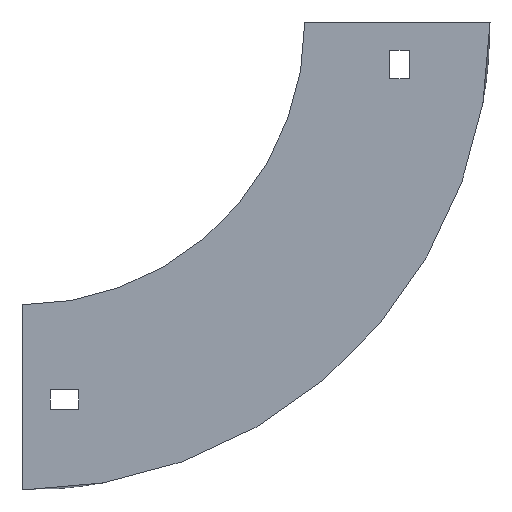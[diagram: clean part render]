
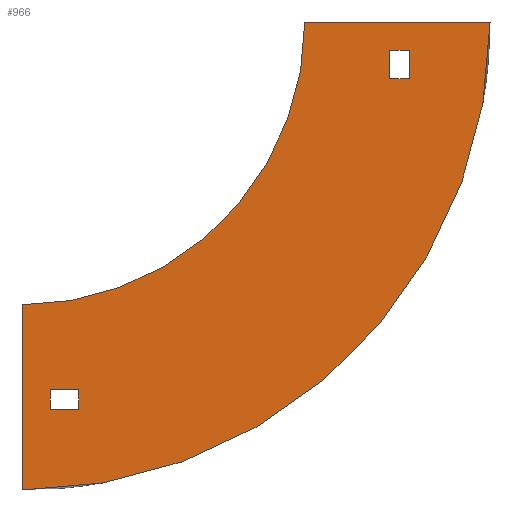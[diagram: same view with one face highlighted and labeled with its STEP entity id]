
A CAD part, left-side view. The second image highlights one B-rep face of the part: STEP entity #966.
In plain terms, the highlighted planar face has unit normal (-1, 0, 0).
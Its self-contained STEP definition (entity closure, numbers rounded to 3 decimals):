
#15 = EDGE_CURVE ( 'NONE', #485, #280, #465, .T. ) ;
#17 = LINE ( 'NONE', #1087, #281 ) ;
#19 = ORIENTED_EDGE ( 'NONE', *, *, #715, .F. ) ;
#23 = LINE ( 'NONE', #553, #668 ) ;
#25 = ORIENTED_EDGE ( 'NONE', *, *, #469, .T. ) ;
#63 = VERTEX_POINT ( 'NONE', #736 ) ;
#74 = CARTESIAN_POINT ( 'NONE',  ( -252., 100., -100. ) ) ;
#79 = CARTESIAN_POINT ( 'NONE',  ( -252., 80., -130. ) ) ;
#128 = CARTESIAN_POINT ( 'NONE',  ( -252., -30., -10. ) ) ;
#133 = VECTOR ( 'NONE', #726, 1000. ) ;
#155 = CARTESIAN_POINT ( 'NONE',  ( -252., -65.5, 0. ) ) ;
#162 = LINE ( 'NONE', #270, #355 ) ;
#170 = VECTOR ( 'NONE', #653, 1000. ) ;
#212 = FACE_BOUND ( 'NONE', #387, .T. ) ;
#218 = LINE ( 'NONE', #128, #1133 ) ;
#223 = DIRECTION ( 'NONE',  ( 0., 1., 0. ) ) ;
#231 = CARTESIAN_POINT ( 'NONE',  ( -252., 90., -130. ) ) ;
#237 = ORIENTED_EDGE ( 'NONE', *, *, #618, .F. ) ;
#250 = LINE ( 'NONE', #798, #578 ) ;
#252 = VERTEX_POINT ( 'NONE', #231 ) ;
#266 = AXIS2_PLACEMENT_3D ( 'NONE', #319, #1004, #478 ) ;
#269 = VERTEX_POINT ( 'NONE', #885 ) ;
#270 = CARTESIAN_POINT ( 'NONE',  ( -252., 90., -130. ) ) ;
#280 = VERTEX_POINT ( 'NONE', #74 ) ;
#281 = VECTOR ( 'NONE', #1068, 1000. ) ;
#286 = CARTESIAN_POINT ( 'NONE',  ( -252., 0., 0. ) ) ;
#307 = FACE_OUTER_BOUND ( 'NONE', #803, .T. ) ;
#319 = CARTESIAN_POINT ( 'NONE',  ( -252., 100., 0. ) ) ;
#342 = DIRECTION ( 'NONE',  ( 1., 0., 0. ) ) ;
#348 = CARTESIAN_POINT ( 'NONE',  ( -252., 90., -137. ) ) ;
#352 = CARTESIAN_POINT ( 'NONE',  ( -252., 100., 0. ) ) ;
#355 = VECTOR ( 'NONE', #864, 1000. ) ;
#362 = ORIENTED_EDGE ( 'NONE', *, *, #996, .F. ) ;
#370 = ORIENTED_EDGE ( 'NONE', *, *, #904, .T. ) ;
#382 = LINE ( 'NONE', #452, #133 ) ;
#387 = EDGE_LOOP ( 'NONE', ( #25, #949, #428, #370 ) ) ;
#392 = CARTESIAN_POINT ( 'NONE',  ( -252., -30., -10. ) ) ;
#395 = VECTOR ( 'NONE', #624, 1000. ) ;
#416 = EDGE_LOOP ( 'NONE', ( #767, #237, #975, #546 ) ) ;
#425 = VERTEX_POINT ( 'NONE', #1084 ) ;
#428 = ORIENTED_EDGE ( 'NONE', *, *, #806, .T. ) ;
#452 = CARTESIAN_POINT ( 'NONE',  ( -252., 90., -137. ) ) ;
#458 = CARTESIAN_POINT ( 'NONE',  ( -252., 100., -165.5 ) ) ;
#462 = VERTEX_POINT ( 'NONE', #554 ) ;
#465 = LINE ( 'NONE', #647, #170 ) ;
#469 = EDGE_CURVE ( 'NONE', #425, #1033, #17, .T. ) ;
#478 = DIRECTION ( 'NONE',  ( 0., 0., -1. ) ) ;
#485 = VERTEX_POINT ( 'NONE', #458 ) ;
#527 = DIRECTION ( 'NONE',  ( 0., 0., -1. ) ) ;
#546 = ORIENTED_EDGE ( 'NONE', *, *, #943, .F. ) ;
#553 = CARTESIAN_POINT ( 'NONE',  ( -252., -30., -20. ) ) ;
#554 = CARTESIAN_POINT ( 'NONE',  ( -252., -37., -10. ) ) ;
#576 = VERTEX_POINT ( 'NONE', #155 ) ;
#578 = VECTOR ( 'NONE', #874, 1000. ) ;
#615 = CIRCLE ( 'NONE', #704, 165.5 ) ;
#618 = EDGE_CURVE ( 'NONE', #63, #252, #843, .T. ) ;
#624 = DIRECTION ( 'NONE',  ( 0., 0., 1. ) ) ;
#647 = CARTESIAN_POINT ( 'NONE',  ( -252., 100., -100. ) ) ;
#649 = EDGE_CURVE ( 'NONE', #280, #905, #801, .T. ) ;
#653 = DIRECTION ( 'NONE',  ( 0., 0., 1. ) ) ;
#662 = CARTESIAN_POINT ( 'NONE',  ( -252., 90., -130. ) ) ;
#668 = VECTOR ( 'NONE', #1079, 1000. ) ;
#673 = CARTESIAN_POINT ( 'NONE',  ( -252., -65.5, 0. ) ) ;
#684 = EDGE_CURVE ( 'NONE', #1033, #462, #218, .T. ) ;
#704 = AXIS2_PLACEMENT_3D ( 'NONE', #352, #342, #527 ) ;
#715 = EDGE_CURVE ( 'NONE', #576, #485, #615, .T. ) ;
#726 = DIRECTION ( 'NONE',  ( 0., -1., 0. ) ) ;
#731 = EDGE_CURVE ( 'NONE', #1050, #63, #963, .T. ) ;
#736 = CARTESIAN_POINT ( 'NONE',  ( -252., 80., -130. ) ) ;
#753 = EDGE_CURVE ( 'NONE', #252, #824, #162, .T. ) ;
#759 = PLANE ( 'NONE',  #266 ) ;
#760 = AXIS2_PLACEMENT_3D ( 'NONE', #932, #768, #1027 ) ;
#767 = ORIENTED_EDGE ( 'NONE', *, *, #753, .F. ) ;
#768 = DIRECTION ( 'NONE',  ( -1., 0., 0. ) ) ;
#798 = CARTESIAN_POINT ( 'NONE',  ( -252., -37., -10. ) ) ;
#801 = CIRCLE ( 'NONE', #760, 100. ) ;
#803 = EDGE_LOOP ( 'NONE', ( #863, #890, #19, #362 ) ) ;
#806 = EDGE_CURVE ( 'NONE', #462, #269, #250, .T. ) ;
#817 = VECTOR ( 'NONE', #1026, 1000. ) ;
#824 = VERTEX_POINT ( 'NONE', #348 ) ;
#843 = LINE ( 'NONE', #662, #1017 ) ;
#863 = ORIENTED_EDGE ( 'NONE', *, *, #649, .F. ) ;
#864 = DIRECTION ( 'NONE',  ( 0., 0., -1. ) ) ;
#874 = DIRECTION ( 'NONE',  ( 0., 0., -1. ) ) ;
#885 = CARTESIAN_POINT ( 'NONE',  ( -252., -37., -20. ) ) ;
#890 = ORIENTED_EDGE ( 'NONE', *, *, #15, .F. ) ;
#904 = EDGE_CURVE ( 'NONE', #269, #425, #23, .T. ) ;
#905 = VERTEX_POINT ( 'NONE', #286 ) ;
#931 = CARTESIAN_POINT ( 'NONE',  ( -252., 80., -137. ) ) ;
#932 = CARTESIAN_POINT ( 'NONE',  ( -252., 100., 0. ) ) ;
#943 = EDGE_CURVE ( 'NONE', #824, #1050, #382, .T. ) ;
#949 = ORIENTED_EDGE ( 'NONE', *, *, #684, .T. ) ;
#963 = LINE ( 'NONE', #79, #395 ) ;
#966 = ADVANCED_FACE ( 'NONE', ( #307, #212, #1119 ), #759, .F. ) ;
#975 = ORIENTED_EDGE ( 'NONE', *, *, #731, .F. ) ;
#996 = EDGE_CURVE ( 'NONE', #905, #576, #1095, .T. ) ;
#1004 = DIRECTION ( 'NONE',  ( 1., 0., 0. ) ) ;
#1017 = VECTOR ( 'NONE', #223, 1000. ) ;
#1026 = DIRECTION ( 'NONE',  ( 0., -1., 0. ) ) ;
#1027 = DIRECTION ( 'NONE',  ( 0., 0., -1. ) ) ;
#1033 = VERTEX_POINT ( 'NONE', #392 ) ;
#1042 = DIRECTION ( 'NONE',  ( 0., -1., 0. ) ) ;
#1050 = VERTEX_POINT ( 'NONE', #931 ) ;
#1068 = DIRECTION ( 'NONE',  ( 0., 0., 1. ) ) ;
#1079 = DIRECTION ( 'NONE',  ( 0., 1., 0. ) ) ;
#1084 = CARTESIAN_POINT ( 'NONE',  ( -252., -30., -20. ) ) ;
#1087 = CARTESIAN_POINT ( 'NONE',  ( -252., -30., -10. ) ) ;
#1095 = LINE ( 'NONE', #673, #817 ) ;
#1119 = FACE_BOUND ( 'NONE', #416, .T. ) ;
#1133 = VECTOR ( 'NONE', #1042, 1000. ) ;
